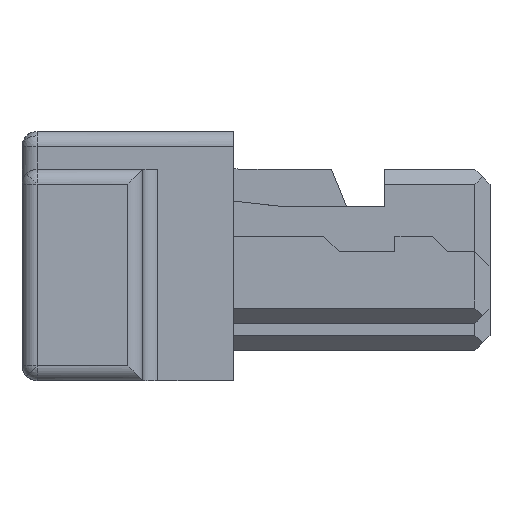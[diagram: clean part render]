
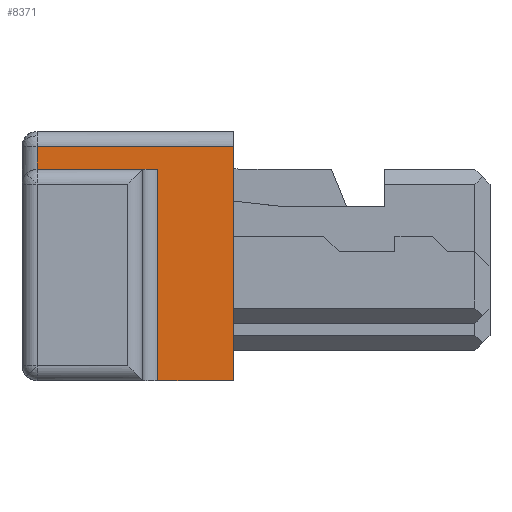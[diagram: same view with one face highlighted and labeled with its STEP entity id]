
A CAD part, front view. The second image highlights one B-rep face of the part: STEP entity #8371.
In plain terms, the highlighted planar face has unit normal (0, -1, 0).
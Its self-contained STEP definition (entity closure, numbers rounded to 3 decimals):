
#148=DIRECTION('',(0.,0.,1.));
#149=VECTOR('',#148,1.4);
#150=CARTESIAN_POINT('',(0.9,-6.8,-0.825));
#151=LINE('',#150,#149);
#152=DIRECTION('',(1.,0.,0.));
#153=VECTOR('',#152,0.5);
#154=CARTESIAN_POINT('',(0.9,-6.8,-0.825));
#155=LINE('',#154,#153);
#156=DIRECTION('',(1.,0.,0.));
#157=VECTOR('',#156,0.8);
#158=CARTESIAN_POINT('',(0.1,-6.8,0.575));
#159=LINE('',#158,#157);
#160=DIRECTION('',(0.,0.,1.));
#161=VECTOR('',#160,0.15);
#162=CARTESIAN_POINT('',(0.1,-6.8,0.575));
#163=LINE('',#162,#161);
#425=DIRECTION('',(0.,0.,-1.));
#426=VECTOR('',#425,1.55);
#427=CARTESIAN_POINT('',(1.4,-6.8,0.725));
#428=LINE('',#427,#426);
#463=DIRECTION('',(1.,0.,0.));
#464=VECTOR('',#463,1.3);
#465=CARTESIAN_POINT('',(0.1,-6.8,0.725));
#466=LINE('',#465,#464);
#6170=CARTESIAN_POINT('',(0.1,-6.8,0.575));
#6171=VERTEX_POINT('',#6170);
#6172=CARTESIAN_POINT('',(0.9,-6.8,0.575));
#6173=VERTEX_POINT('',#6172);
#6223=CARTESIAN_POINT('',(0.9,-6.8,-0.825));
#6224=VERTEX_POINT('',#6223);
#6225=CARTESIAN_POINT('',(0.1,-6.8,0.725));
#6226=CARTESIAN_POINT('',(1.4,-6.8,0.725));
#6227=VERTEX_POINT('',#6225);
#6228=VERTEX_POINT('',#6226);
#6229=CARTESIAN_POINT('',(1.4,-6.8,-0.825));
#6230=VERTEX_POINT('',#6229);
#8355=CARTESIAN_POINT('',(0.75,-6.8,-0.05));
#8356=DIRECTION('',(0.,1.,0.));
#8357=DIRECTION('',(-1.,0.,0.));
#8358=AXIS2_PLACEMENT_3D('',#8355,#8356,#8357);
#8359=PLANE('',#8358);
#8361=ORIENTED_EDGE('',*,*,#8360,.T.);
#8363=ORIENTED_EDGE('',*,*,#8362,.T.);
#8365=ORIENTED_EDGE('',*,*,#8364,.T.);
#8366=ORIENTED_EDGE('',*,*,#8327,.F.);
#8367=ORIENTED_EDGE('',*,*,#8349,.T.);
#8368=ORIENTED_EDGE('',*,*,#7998,.F.);
#8369=EDGE_LOOP('',(#8361,#8363,#8365,#8366,#8367,#8368));
#8370=FACE_OUTER_BOUND('',#8369,.F.);
#8371=ADVANCED_FACE('',(#8370),#8359,.F.);
#7998=EDGE_CURVE('',#6171,#6173,#159,.T.);
#8327=EDGE_CURVE('',#6224,#6230,#155,.T.);
#8349=EDGE_CURVE('',#6224,#6173,#151,.T.);
#8360=EDGE_CURVE('',#6171,#6227,#163,.T.);
#8362=EDGE_CURVE('',#6227,#6228,#466,.T.);
#8364=EDGE_CURVE('',#6228,#6230,#428,.T.);
